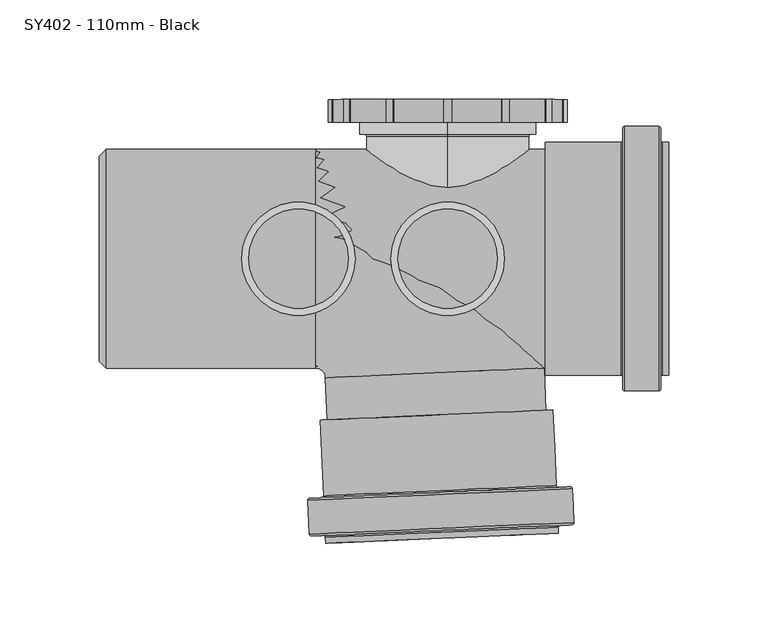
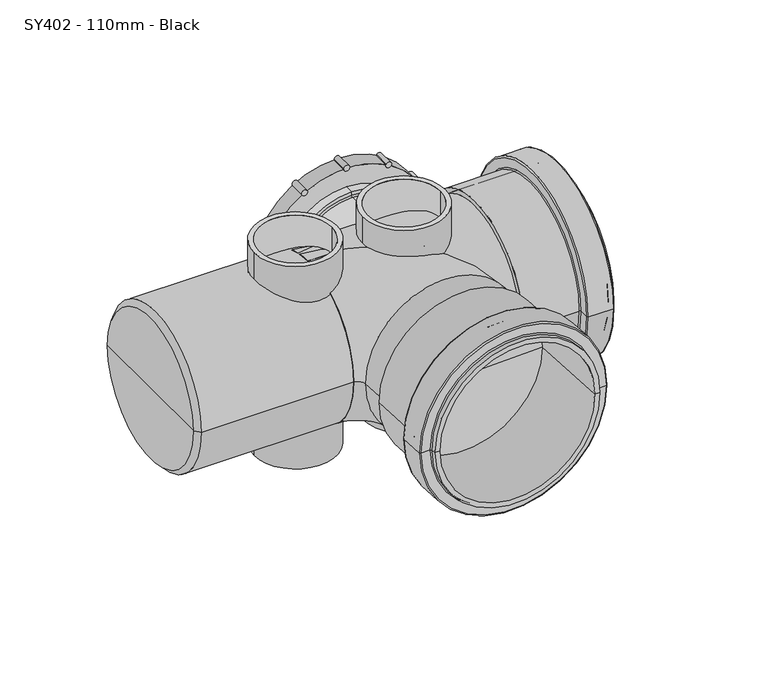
"""IFC4 building model written with IfcOpenShell, lengths in millimetres: pipe fitting geometry, MarleyPlumbingAndDrainage_PipeFitting_AccessBranch87-5_SY402 : SY402 - 110mm - Black."""

from ifc_helpers import new_model, si_unit, point, frame, frame_2d, origin, place, context, project, spatial, polyline, circle_curve, ellipse_curve, trimmed, segment, composite_curve, outline, extrude, source, transform, mapped, element, save
from ifc_brep_helpers import plane_surface, cylinder_surface, revolved_surface, advanced_brep


def sy402_110mm_black_3ef6cacd(model_context):
    return source(origin(), model_context, "Body", "SolidModel", [
        advanced_brep(
        [(62.8811965, -134.95477, 0.0), (-54.0074454, -140.0582383, 0.0), (-53.8765872, -143.055383, 0.0), (63.0120547, -137.9519146, 0.0), (69.8309147, -133.650386, 0.0), (-61.0444023, -139.3645258, 0.0), (-55.050113, -139.1028095, 0.0), (63.8366253, -133.9121024, 0.0), (70.0448139, -115.6238987, 0.0), (-62.8285995, -121.4252772, 0.0), (-62.08707, -138.4090969, 0.0), (70.7863435, -132.6077184, 0.0), (62.9877172, -114.9310655, 0.0), (-55.8587416, -120.1200139, 0.0), (-61.8731707, -120.3826096, 0.0), (69.0021463, -114.6684698, 0.0), (60.3076527, -76.0109249, 0.0), (-56.5809893, -81.1143932, 0.0), (-54.9225732, -119.0983654, 0.0), (61.9660687, -113.9948971, 0.0), (1.8633317, -78.5626591, 0.0), (56.9636517, -79.6602615, 0.0), (-52.9316526, -84.4583941, 0.0), (2.0159996, -82.0593278, 0.0), (59.5153859, -138.1045825, 0.0), (-50.3799185, -142.9027151, 0.0)],
        [
            (0, 1, circle_curve(frame((4.4368756, -137.5065041, 0.0), z_axis=(0.04361938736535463, -0.999048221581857, 0.0), x_axis=(-0.999048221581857, -0.04361938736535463, 0.0)), 58.5)),
            (1, 2),
            (2, 3, circle_curve(frame((4.5677337, -140.5036488, 0.0), z_axis=(-0.04361938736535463, 0.999048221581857, 0.0), x_axis=(-0.999048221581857, -0.04361938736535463, 0.0)), 58.5)),
            (3, 0),
            (1, 0, circle_curve(frame((4.4368756, -137.5065041, 0.0), z_axis=(0.04361938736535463, -0.999048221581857, 0.0), x_axis=(-0.999048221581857, -0.04361938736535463, 0.0)), 58.5)),
            (3, 2, circle_curve(frame((4.5677337, -140.5036488, 0.0), z_axis=(-0.04361938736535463, 0.999048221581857, 0.0), x_axis=(-0.999048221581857, -0.04361938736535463, 0.0)), 58.5)),
            (4, 5, circle_curve(frame((4.3932562, -136.5074559, 0.0), z_axis=(0.04361938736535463, -0.999048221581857, 0.0), x_axis=(-0.999048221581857, -0.04361938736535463, 0.0)), 65.5)),
            (5, 6),
            (6, 7, circle_curve(frame((4.3932562, -136.5074559, 0.0), z_axis=(-0.04361938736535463, 0.999048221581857, 0.0), x_axis=(-0.999048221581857, -0.04361938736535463, 0.0)), 59.5)),
            (7, 4),
            (5, 4, circle_curve(frame((4.3932562, -136.5074559, 0.0), z_axis=(0.04361938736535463, -0.999048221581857, 0.0), x_axis=(-0.999048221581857, -0.04361938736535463, 0.0)), 65.5)),
            (7, 6, circle_curve(frame((4.3932562, -136.5074559, 0.0), z_axis=(-0.04361938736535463, 0.999048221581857, 0.0), x_axis=(-0.999048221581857, -0.04361938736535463, 0.0)), 59.5)),
            (8, 9, circle_curve(frame((3.6081072, -118.5245879, 0.0), z_axis=(0.04361938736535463, -0.999048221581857, 0.0), x_axis=(-0.999048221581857, -0.04361938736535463, 0.0)), 66.5)),
            (9, 10),
            (10, 11, circle_curve(frame((4.3496368, -135.5084077, 0.0), z_axis=(-0.04361938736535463, 0.999048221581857, 0.0), x_axis=(-0.999048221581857, -0.04361938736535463, 0.0)), 66.5)),
            (11, 8),
            (9, 8, circle_curve(frame((3.6081072, -118.5245879, 0.0), z_axis=(0.04361938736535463, -0.999048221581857, 0.0), x_axis=(-0.999048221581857, -0.04361938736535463, 0.0)), 66.5)),
            (11, 10, circle_curve(frame((4.3496368, -135.5084077, 0.0), z_axis=(-0.04361938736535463, 0.999048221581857, 0.0), x_axis=(-0.999048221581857, -0.04361938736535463, 0.0)), 66.5)),
            (12, 13, circle_curve(frame((3.5644878, -117.5255397, 0.0), z_axis=(0.04361938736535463, -0.999048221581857, 0.0), x_axis=(-0.999048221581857, -0.04361938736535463, 0.0)), 59.479841)),
            (13, 14),
            (14, 15, circle_curve(frame((3.5644878, -117.5255397, 0.0), z_axis=(-0.04361938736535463, 0.999048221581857, 0.0), x_axis=(-0.999048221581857, -0.04361938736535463, 0.0)), 65.5)),
            (15, 12),
            (13, 12, circle_curve(frame((3.5644878, -117.5255397, 0.0), z_axis=(0.04361938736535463, -0.999048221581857, 0.0), x_axis=(-0.999048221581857, -0.04361938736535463, 0.0)), 59.479841)),
            (15, 14, circle_curve(frame((3.5644878, -117.5255397, 0.0), z_axis=(-0.04361938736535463, 0.999048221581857, 0.0), x_axis=(-0.999048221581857, -0.04361938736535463, 0.0)), 65.5)),
            (16, 17, circle_curve(frame((1.8633317, -78.5626591, 0.0), z_axis=(0.04361938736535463, -0.999048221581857, 0.0), x_axis=(-0.999048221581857, -0.04361938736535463, 0.0)), 58.5)),
            (17, 18),
            (18, 19, circle_curve(frame((3.5217477, -116.5466313, 0.0), z_axis=(-0.04361938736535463, 0.999048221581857, 0.0), x_axis=(-0.999048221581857, -0.04361938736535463, 0.0)), 58.5)),
            (19, 16),
            (17, 16, circle_curve(frame((1.8633317, -78.5626591, 0.0), z_axis=(0.04361938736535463, -0.999048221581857, 0.0), x_axis=(-0.999048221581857, -0.04361938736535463, 0.0)), 58.5)),
            (19, 18, circle_curve(frame((3.5217477, -116.5466313, 0.0), z_axis=(-0.04361938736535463, 0.999048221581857, 0.0), x_axis=(-0.999048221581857, -0.04361938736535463, 0.0)), 58.5)),
            (20, 17),
            (16, 20),
            (21, 22, circle_curve(frame((2.0159996, -82.0593278, 0.0), z_axis=(0.04361938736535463, -0.999048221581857, 0.0), x_axis=(-0.999048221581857, -0.04361938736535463, 0.0)), 55.0)),
            (22, 23),
            (23, 21),
            (22, 21, circle_curve(frame((2.0159996, -82.0593278, 0.0), z_axis=(0.04361938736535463, -0.999048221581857, 0.0), x_axis=(-0.999048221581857, -0.04361938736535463, 0.0)), 55.0)),
            (24, 25, circle_curve(frame((4.5677337, -140.5036488, 0.0), z_axis=(0.04361938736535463, -0.999048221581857, 0.0), x_axis=(-0.999048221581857, -0.04361938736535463, 0.0)), 55.0)),
            (25, 22),
            (21, 24),
            (25, 24, circle_curve(frame((4.5677337, -140.5036488, 0.0), z_axis=(0.04361938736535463, -0.999048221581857, 0.0), x_axis=(-0.999048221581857, -0.04361938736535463, 0.0)), 55.0)),
            (2, 25),
            (24, 3),
            (6, 1, circle_curve(frame((-55.0064936, -140.1018577, 0.0), z_axis=(0.0, 0.0, -1.0), x_axis=(0.04361938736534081, -0.9990482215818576, 0.0)), 1.0)),
            (0, 7, circle_curve(frame((63.8802447, -134.9111506, 0.0), z_axis=(0.0, 0.0, -1.0), x_axis=(0.04361938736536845, -0.9990482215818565, 0.0)), 1.0)),
            (10, 5, circle_curve(frame((-61.0880217, -138.3654776, 0.0), z_axis=(0.0, 0.0, 1.0), x_axis=(0.04361938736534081, -0.9990482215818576, 0.0)), 1.0)),
            (4, 11, circle_curve(frame((69.7872953, -132.6513378, 0.0), z_axis=(0.0, 0.0, 1.0), x_axis=(0.04361938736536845, -0.9990482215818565, 0.0)), 1.0)),
            (14, 9, circle_curve(frame((-61.8295513, -121.3816578, 0.0), z_axis=(0.0, 0.0, 1.0), x_axis=(0.04361938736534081, -0.9990482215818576, 0.0)), 1.0)),
            (8, 15, circle_curve(frame((69.0457657, -115.667518, 0.0), z_axis=(0.0, 0.0, 1.0), x_axis=(0.04361938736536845, -0.9990482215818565, 0.0)), 1.0)),
            (18, 13, circle_curve(frame((-55.9014817, -119.1411055, 0.0), z_axis=(0.0, 0.0, -1.0), x_axis=(0.04361938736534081, -0.9990482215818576, 0.0)), 0.979841)),
            (12, 19, circle_curve(frame((62.9449771, -113.952157, 0.0), z_axis=(0.0, 0.0, -1.0), x_axis=(0.04361938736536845, -0.9990482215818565, 0.0)), 0.979841)),
        ],
        [
            cylinder_surface(frame((3.4670342, -115.2934859, 0.0), z_axis=(-0.04361938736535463, 0.999048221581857, 0.0), x_axis=(-0.999048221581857, -0.04361938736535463, 0.0)), 58.5),
            plane_surface(frame((4.3932562, -136.5074559, 0.0), z_axis=(0.04361938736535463, -0.999048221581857, 0.0), x_axis=(-0.999048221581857, -0.04361938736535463, 0.0))),
            cylinder_surface(frame((3.4670342, -115.2934859, 0.0), z_axis=(-0.04361938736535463, 0.999048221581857, 0.0), x_axis=(-0.999048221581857, -0.04361938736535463, 0.0)), 66.5),
            plane_surface(frame((3.5644878, -117.5255397, 0.0), z_axis=(-0.04361938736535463, 0.999048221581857, 0.0), x_axis=(-0.999048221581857, -0.04361938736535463, 0.0))),
            plane_surface(frame((1.8633317, -78.5626591, 0.0), z_axis=(-0.04361938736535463, 0.999048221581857, 0.0), x_axis=(-0.999048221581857, -0.04361938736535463, 0.0))),
            plane_surface(frame((2.0159996, -82.0593278, 0.0), z_axis=(0.04361938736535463, -0.999048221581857, 0.0), x_axis=(-0.999048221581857, -0.04361938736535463, 0.0))),
            revolved_surface(polyline([(-52.93165266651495, -84.45839410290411, 0.0), (-50.379918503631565, -142.90271511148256, 0.0)]), (3.4670342, -115.2934859, 0.0), (-0.04361938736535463, 0.999048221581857, 0.0)),
            plane_surface(frame((4.5677337, -140.5036488, 0.0), z_axis=(0.04361938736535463, -0.999048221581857, 0.0), x_axis=(-0.999048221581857, -0.04361938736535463, 0.0))),
            revolved_surface(trimmed(ellipse_curve(frame((-55.0064936, -140.1018577, 0.0), z_axis=(0.0, 0.0, 1.0), x_axis=(0.04361938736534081, -0.9990482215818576, 0.0)), 1.0, 1.0), [point((-54.0074454, -140.0582383, 0.0))], [point((-55.050113, -139.1028095, 0.0))], True, "CARTESIAN"), (3.4670342, -115.2934859, 0.0), (-0.04361938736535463, 0.999048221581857, 0.0)),
            revolved_surface(trimmed(ellipse_curve(frame((-61.0880217, -138.3654776, 0.0), z_axis=(0.0, 0.0, -1.0), x_axis=(0.04361938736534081, -0.9990482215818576, 0.0)), 1.0, 1.0), [point((-61.0444023, -139.3645258, 0.0))], [point((-62.08707, -138.4090969, 0.0))], True, "CARTESIAN"), (3.4670342, -115.2934859, 0.0), (-0.04361938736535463, 0.999048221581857, 0.0)),
            revolved_surface(trimmed(ellipse_curve(frame((-61.8295513, -121.3816578, 0.0), z_axis=(0.0, 0.0, -1.0), x_axis=(0.04361938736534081, -0.9990482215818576, 0.0)), 1.0, 1.0), [point((-62.8285995, -121.4252772, 0.0))], [point((-61.8731707, -120.3826096, 0.0))], True, "CARTESIAN"), (3.4670342, -115.2934859, 0.0), (-0.04361938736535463, 0.999048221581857, 0.0)),
            revolved_surface(trimmed(ellipse_curve(frame((-55.9014817, -119.1411055, 0.0), z_axis=(0.0, 0.0, 1.0), x_axis=(0.04361938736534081, -0.9990482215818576, 0.0)), 0.979841, 0.979841), [point((-55.8587416, -120.1200139, 0.0))], [point((-54.9225732, -119.0983654, 0.0))], True, "CARTESIAN"), (3.4670342, -115.2934859, 0.0), (-0.04361938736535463, 0.999048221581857, 0.0)),
        ],
        [
            (0, [[1, 2, 3, 4]]),
            (0, [[5, -4, 6, -2]]),
            (1, [[7, 8, 9, 10]]),
            (1, [[11, -10, 12, -8]]),
            (2, [[13, 14, 15, 16]]),
            (2, [[17, -16, 18, -14]]),
            (3, [[19, 20, 21, 22]]),
            (3, [[23, -22, 24, -20]]),
            (0, [[25, 26, 27, 28]]),
            (0, [[29, -28, 30, -26]]),
            (4, [[31, -25, 32]]),
            (4, [[-32, -29, -31]]),
            (5, [[33, 34, 35]]),
            (5, [[36, -35, -34]]),
            (6, [[37, 38, -33, 39]]),
            (6, [[40, -39, -36, -38]]),
            (7, [[-3, 41, -37, 42]]),
            (7, [[-6, -42, -40, -41]]),
            (8, [[-9, 43, -1, 44]]),
            (8, [[-12, -44, -5, -43]]),
            (9, [[-15, 45, -7, 46]]),
            (9, [[-18, -46, -11, -45]]),
            (10, [[-21, 47, -13, 48]]),
            (10, [[-24, -48, -17, -47]]),
            (11, [[-27, 49, -19, 50]]),
            (11, [[-30, -50, -23, -49]]),
        ],
    ),
        extrude(outline(composite_curve([segment(trimmed(circle_curve(frame_2d((29.0, 57.6251808)), 2.0), [point((30.7320508, 56.6251808))], [point((27.2679492, 58.6251808))], False, "CARTESIAN"), True, "CONTINUOUS"), segment(trimmed(circle_curve(frame_2d((29.0, 57.6251808)), 2.0), [point((27.2679492, 58.6251808))], [point((30.7320508, 56.6251808))], False, "CARTESIAN"), True, "CONTINUOUS")], self_intersect=False)), frame((0.0, 68.5, 0.0), z_axis=(0.0, 1.0, 0.0), x_axis=(0.0, 0.0, 1.0)), (0.0, 0.0, 1.0), 11.5),
        extrude(outline(composite_curve([segment(trimmed(circle_curve(frame_2d((0.0, 65.3957074)), 2.0), [point((2.0, 65.3957074))], [point((-2.0, 65.3957074))], False, "CARTESIAN"), True, "CONTINUOUS"), segment(trimmed(circle_curve(frame_2d((0.0, 65.3957074)), 2.0), [point((-2.0, 65.3957074))], [point((2.0, 65.3957074))], False, "CARTESIAN"), True, "CONTINUOUS")], self_intersect=False)), frame((0.0, 68.5, 0.0), z_axis=(0.0, 1.0, 0.0), x_axis=(0.0, 0.0, 1.0)), (0.0, 0.0, 1.0), 11.5),
        extrude(outline(composite_curve([segment(trimmed(circle_curve(frame_2d((-29.0, 57.6251808)), 2.0), [point((-27.2679492, 58.6251808))], [point((-30.7320508, 56.6251808))], False, "CARTESIAN"), True, "CONTINUOUS"), segment(trimmed(circle_curve(frame_2d((-29.0, 57.6251808)), 2.0), [point((-30.7320508, 56.6251808))], [point((-27.2679492, 58.6251808))], False, "CARTESIAN"), True, "CONTINUOUS")], self_intersect=False)), frame((0.0, 68.5, 0.0), z_axis=(0.0, 1.0, 0.0), x_axis=(0.0, 0.0, 1.0)), (0.0, 0.0, 1.0), 11.5),
        extrude(outline(composite_curve([segment(trimmed(circle_curve(frame_2d((-50.2294734, 36.3957074)), 2.0), [point((-49.2294734, 38.1277582))], [point((-51.2294734, 34.6636566))], False, "CARTESIAN"), True, "CONTINUOUS"), segment(trimmed(circle_curve(frame_2d((-50.2294734, 36.3957074)), 2.0), [point((-51.2294734, 34.6636566))], [point((-49.2294734, 38.1277582))], False, "CARTESIAN"), True, "CONTINUOUS")], self_intersect=False)), frame((0.0, 68.5, 0.0), z_axis=(0.0, 1.0, 0.0), x_axis=(0.0, 0.0, 1.0)), (0.0, 0.0, 1.0), 11.5),
        extrude(outline(composite_curve([segment(trimmed(circle_curve(frame_2d((-58.0, 7.3957074)), 2.0), [point((-58.0, 9.3957074))], [point((-58.0, 5.3957074))], False, "CARTESIAN"), True, "CONTINUOUS"), segment(trimmed(circle_curve(frame_2d((-58.0, 7.3957074)), 2.0), [point((-58.0, 5.3957074))], [point((-58.0, 9.3957074))], False, "CARTESIAN"), True, "CONTINUOUS")], self_intersect=False)), frame((0.0, 68.5, 0.0), z_axis=(0.0, 1.0, 0.0), x_axis=(0.0, 0.0, 1.0)), (0.0, 0.0, 1.0), 11.5),
        extrude(outline(composite_curve([segment(trimmed(circle_curve(frame_2d((-50.2294734, -21.6042926)), 2.0), [point((-51.2294734, -19.8722418))], [point((-49.2294734, -23.3363434))], False, "CARTESIAN"), True, "CONTINUOUS"), segment(trimmed(circle_curve(frame_2d((-50.2294734, -21.6042926)), 2.0), [point((-49.2294734, -23.3363434))], [point((-51.2294734, -19.8722418))], False, "CARTESIAN"), True, "CONTINUOUS")], self_intersect=False)), frame((0.0, 68.5, 0.0), z_axis=(0.0, 1.0, 0.0), x_axis=(0.0, 0.0, 1.0)), (0.0, 0.0, 1.0), 11.5),
        extrude(outline(composite_curve([segment(trimmed(circle_curve(frame_2d((-29.0, -42.833766)), 2.0), [point((-30.7320508, -41.833766))], [point((-27.2679492, -43.833766))], False, "CARTESIAN"), True, "CONTINUOUS"), segment(trimmed(circle_curve(frame_2d((-29.0, -42.833766)), 2.0), [point((-27.2679492, -43.833766))], [point((-30.7320508, -41.833766))], False, "CARTESIAN"), True, "CONTINUOUS")], self_intersect=False)), frame((0.0, 68.5, 0.0), z_axis=(0.0, 1.0, 0.0), x_axis=(0.0, 0.0, 1.0)), (0.0, 0.0, 1.0), 11.5),
        extrude(outline(composite_curve([segment(trimmed(circle_curve(frame_2d((0.0, -50.6042926)), 2.0), [point((-2.0, -50.6042926))], [point((2.0, -50.6042926))], False, "CARTESIAN"), True, "CONTINUOUS"), segment(trimmed(circle_curve(frame_2d((0.0, -50.6042926)), 2.0), [point((2.0, -50.6042926))], [point((-2.0, -50.6042926))], False, "CARTESIAN"), True, "CONTINUOUS")], self_intersect=False)), frame((0.0, 68.5, 0.0), z_axis=(0.0, 1.0, 0.0), x_axis=(0.0, 0.0, 1.0)), (0.0, 0.0, 1.0), 11.5),
        extrude(outline(composite_curve([segment(trimmed(circle_curve(frame_2d((29.0, -42.833766)), 2.0), [point((27.2679492, -43.833766))], [point((30.7320508, -41.833766))], False, "CARTESIAN"), True, "CONTINUOUS"), segment(trimmed(circle_curve(frame_2d((29.0, -42.833766)), 2.0), [point((30.7320508, -41.833766))], [point((27.2679492, -43.833766))], False, "CARTESIAN"), True, "CONTINUOUS")], self_intersect=False)), frame((0.0, 68.5, 0.0), z_axis=(0.0, 1.0, 0.0), x_axis=(0.0, 0.0, 1.0)), (0.0, 0.0, 1.0), 11.5),
        extrude(outline(composite_curve([segment(trimmed(circle_curve(frame_2d((50.2294734, -21.6042926)), 2.0), [point((49.2294734, -23.3363434))], [point((51.2294734, -19.8722418))], False, "CARTESIAN"), True, "CONTINUOUS"), segment(trimmed(circle_curve(frame_2d((50.2294734, -21.6042926)), 2.0), [point((51.2294734, -19.8722418))], [point((49.2294734, -23.3363434))], False, "CARTESIAN"), True, "CONTINUOUS")], self_intersect=False)), frame((0.0, 68.5, 0.0), z_axis=(0.0, 1.0, 0.0), x_axis=(0.0, 0.0, 1.0)), (0.0, 0.0, 1.0), 11.5),
        extrude(outline(composite_curve([segment(trimmed(circle_curve(frame_2d((50.2294734, 36.3957074)), 2.0), [point((51.2294734, 34.6636566))], [point((49.2294734, 38.1277582))], False, "CARTESIAN"), True, "CONTINUOUS"), segment(trimmed(circle_curve(frame_2d((50.2294734, 36.3957074)), 2.0), [point((49.2294734, 38.1277582))], [point((51.2294734, 34.6636566))], False, "CARTESIAN"), True, "CONTINUOUS")], self_intersect=False)), frame((0.0, 68.5, 0.0), z_axis=(0.0, 1.0, 0.0), x_axis=(0.0, 0.0, 1.0)), (0.0, 0.0, 1.0), 11.5),
        extrude(outline(composite_curve([segment(trimmed(circle_curve(frame_2d((58.0, 7.3957074)), 2.0), [point((58.0, 5.3957074))], [point((58.0, 9.3957074))], False, "CARTESIAN"), True, "CONTINUOUS"), segment(trimmed(circle_curve(frame_2d((58.0, 7.3957074)), 2.0), [point((58.0, 9.3957074))], [point((58.0, 5.3957074))], False, "CARTESIAN"), True, "CONTINUOUS")], self_intersect=False)), frame((0.0, 68.5, 0.0), z_axis=(0.0, 1.0, 0.0), x_axis=(0.0, 0.0, 1.0)), (0.0, 0.0, 1.0), 11.5),
        advanced_brep(
        [(-50.6042926, 80.0, 0.0), (65.3957074, 80.0, 0.0), (-13.4605397, 80.0, -50.3514345), (28.2519545, 80.0, -50.3514345), (26.9125624, 80.0, -47.1178562), (-12.1211477, 80.0, -47.1178562), (57.7471419, 80.0, -20.8562471), (57.7471419, 80.0, 20.8562471), (54.5135635, 80.0, 19.5168551), (54.5135635, 80.0, -19.5168551), (-39.7221488, 80.0, 19.5168551), (-42.9557271, 80.0, 20.8562471), (-42.9557271, 80.0, -20.8562471), (-39.7221488, 80.0, -19.5168551), (-12.1211477, 80.0, 47.1178562), (26.9125624, 80.0, 47.1178562), (28.2519545, 80.0, 50.3514345), (-13.4605397, 80.0, 50.3514345), (-50.6042926, 68.5, 0.0), (65.3957074, 68.5, 0.0), (7.3957074, 68.5, -44.5), (7.3957074, 68.5, 44.5), (-12.1211477, 74.0, -47.1178562), (26.9125624, 74.0, -47.1178562), (28.2519545, 74.0, -50.3514345), (-13.4605397, 74.0, -50.3514345), (54.5135635, 74.0, -19.5168551), (54.5135635, 74.0, 19.5168551), (57.7471419, 74.0, 20.8562471), (57.7471419, 74.0, -20.8562471), (-39.7221488, 74.0, -19.5168551), (-42.9557271, 74.0, -20.8562471), (-42.9557271, 74.0, 20.8562471), (-39.7221488, 74.0, 19.5168551), (-13.4605397, 74.0, 50.3514345), (28.2519545, 74.0, 50.3514345), (26.9125624, 74.0, 47.1178562), (-12.1211477, 74.0, 47.1178562), (7.3957074, 62.5, -44.5), (7.3957074, 62.5, 44.5), (7.3957074, 62.5, 42.0), (7.3957074, 62.5, -42.0), (7.3957074, 61.5, 41.0), (7.3957074, 61.5, -41.0), (7.3957074, 0.0, 41.0), (7.3957074, 0.0, -41.0), (7.3957074, 0.0, 0.0)],
        [
            (0, 1, circle_curve(frame((7.3957074, 80.0, 0.0), z_axis=(0.0, 1.0, 0.0), x_axis=(1.0000000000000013, 0.0, 0.0)), 58.0)),
            (1, 0, circle_curve(frame((7.3957074, 80.0, 0.0), z_axis=(0.0, 1.0, 0.0), x_axis=(1.0000000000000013, 0.0, 0.0)), 58.0)),
            (2, 3, circle_curve(frame((7.3957074, 80.0, 0.0), z_axis=(0.0, -1.0, 0.0), x_axis=(1.0000000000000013, 0.0, 0.0)), 54.5)),
            (3, 4),
            (4, 5, circle_curve(frame((7.3957074, 80.0, 0.0), z_axis=(0.0, 1.0, 0.0), x_axis=(1.0000000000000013, 0.0, 0.0)), 51.0)),
            (5, 2),
            (6, 7, circle_curve(frame((7.3957074, 80.0, 0.0), z_axis=(0.0, -1.0, 0.0), x_axis=(1.0000000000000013, 0.0, 0.0)), 54.5)),
            (7, 8),
            (8, 9, circle_curve(frame((7.3957074, 80.0, 0.0), z_axis=(0.0, 1.0, 0.0), x_axis=(1.0000000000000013, 0.0, 0.0)), 51.0)),
            (9, 6),
            (10, 11),
            (11, 12, circle_curve(frame((7.3957074, 80.0, 0.0), z_axis=(0.0, -1.0, 0.0), x_axis=(1.0000000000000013, 0.0, 0.0)), 54.5)),
            (12, 13),
            (13, 10, circle_curve(frame((7.3957074, 80.0, 0.0), z_axis=(0.0, 1.0, 0.0), x_axis=(1.0000000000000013, 0.0, 0.0)), 51.0)),
            (14, 15, circle_curve(frame((7.3957074, 80.0, 0.0), z_axis=(0.0, 1.0, 0.0), x_axis=(1.0000000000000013, 0.0, 0.0)), 51.0)),
            (15, 16),
            (16, 17, circle_curve(frame((7.3957074, 80.0, 0.0), z_axis=(0.0, -1.0, 0.0), x_axis=(1.0000000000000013, 0.0, 0.0)), 54.5)),
            (17, 14),
            (18, 19, circle_curve(frame((7.3957074, 68.5, 0.0), z_axis=(0.0, -1.0, 0.0), x_axis=(1.0000000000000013, 0.0, 0.0)), 58.0)),
            (19, 18, circle_curve(frame((7.3957074, 68.5, 0.0), z_axis=(0.0, -1.0, 0.0), x_axis=(1.0000000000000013, 0.0, 0.0)), 58.0)),
            (20, 21, circle_curve(frame((7.3957074, 68.5, 0.0), z_axis=(0.0, 1.0, 0.0), x_axis=(0.0, 0.0, 1.0000000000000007)), 44.5)),
            (21, 20, circle_curve(frame((7.3957074, 68.5, 0.0), z_axis=(0.0, 1.0, 0.0), x_axis=(0.0, 0.0, 1.0000000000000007)), 44.5)),
            (1, 19),
            (18, 0),
            (22, 23, circle_curve(frame((7.3957074, 74.0, 0.0), z_axis=(0.0, -1.0, 0.0), x_axis=(1.0000000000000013, 0.0, 0.0)), 51.0)),
            (23, 24),
            (24, 25, circle_curve(frame((7.3957074, 74.0, 0.0), z_axis=(0.0, 1.0, 0.0), x_axis=(1.0000000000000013, 0.0, 0.0)), 54.5)),
            (25, 22),
            (26, 27, circle_curve(frame((7.3957074, 74.0, 0.0), z_axis=(0.0, -1.0, 0.0), x_axis=(1.0000000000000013, 0.0, 0.0)), 51.0)),
            (27, 28),
            (28, 29, circle_curve(frame((7.3957074, 74.0, 0.0), z_axis=(0.0, 1.0, 0.0), x_axis=(1.0000000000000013, 0.0, 0.0)), 54.5)),
            (29, 26),
            (30, 31),
            (31, 32, circle_curve(frame((7.3957074, 74.0, 0.0), z_axis=(0.0, 1.0, 0.0), x_axis=(1.0000000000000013, 0.0, 0.0)), 54.5)),
            (32, 33),
            (33, 30, circle_curve(frame((7.3957074, 74.0, 0.0), z_axis=(0.0, -1.0, 0.0), x_axis=(1.0000000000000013, 0.0, 0.0)), 51.0)),
            (34, 35, circle_curve(frame((7.3957074, 74.0, 0.0), z_axis=(0.0, 1.0, 0.0), x_axis=(1.0000000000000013, 0.0, 0.0)), 54.5)),
            (35, 36),
            (36, 37, circle_curve(frame((7.3957074, 74.0, 0.0), z_axis=(0.0, -1.0, 0.0), x_axis=(1.0000000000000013, 0.0, 0.0)), 51.0)),
            (37, 34),
            (25, 2),
            (5, 22),
            (24, 3),
            (23, 4),
            (29, 6),
            (9, 26),
            (28, 7),
            (27, 8),
            (33, 10),
            (13, 30),
            (32, 11),
            (31, 12),
            (37, 14),
            (17, 34),
            (36, 15),
            (35, 16),
            (38, 20),
            (21, 39),
            (39, 38, circle_curve(frame((7.3957074, 62.5, 0.0), z_axis=(0.0, 1.0, 0.0), x_axis=(0.0, 0.0, 1.0000000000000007)), 44.5)),
            (38, 39, circle_curve(frame((7.3957074, 62.5, 0.0), z_axis=(0.0, 1.0, 0.0), x_axis=(0.0, 0.0, 1.0000000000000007)), 44.5)),
            (39, 40),
            (40, 41, circle_curve(frame((7.3957074, 62.5, 0.0), z_axis=(0.0, 1.0, 0.0), x_axis=(0.0, 0.0, 1.0000000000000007)), 42.0)),
            (41, 38),
            (41, 40, circle_curve(frame((7.3957074, 62.5, 0.0), z_axis=(0.0, 1.0, 0.0), x_axis=(0.0, 0.0, 1.0000000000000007)), 42.0)),
            (40, 42, circle_curve(frame((7.3957074, 61.5, 42.0), z_axis=(-1.0000000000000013, 0.0, 0.0), x_axis=(0.0, 1.0000000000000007, 0.0)), 1.0)),
            (42, 43, circle_curve(frame((7.3957074, 61.5, 0.0), z_axis=(0.0, 1.0, 0.0), x_axis=(0.0, 0.0, 1.0000000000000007)), 41.0)),
            (43, 41, circle_curve(frame((7.3957074, 61.5, -42.0), z_axis=(-1.0000000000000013, 0.0, 0.0), x_axis=(0.0, 1.0000000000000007, 0.0)), 1.0)),
            (43, 42, circle_curve(frame((7.3957074, 61.5, 0.0), z_axis=(0.0, 1.0, 0.0), x_axis=(0.0, 0.0, 1.0000000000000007)), 41.0)),
            (42, 44),
            (44, 45, circle_curve(frame((7.3957074, 0.0, 0.0), z_axis=(0.0, 1.0, 0.0), x_axis=(0.0, 0.0, 1.0000000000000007)), 41.0)),
            (45, 43),
            (45, 44, circle_curve(frame((7.3957074, 0.0, 0.0), z_axis=(0.0, 1.0, 0.0), x_axis=(0.0, 0.0, 1.0000000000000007)), 41.0)),
            (44, 46),
            (46, 45),
        ],
        [
            plane_surface(frame((65.3957074, 80.0, 0.0), z_axis=(0.0, 1.0, 0.0), x_axis=(0.0, 0.0, 1.0))),
            plane_surface(frame((65.3957074, 68.5, 0.0), z_axis=(0.0, -1.0, 0.0), x_axis=(0.0, 0.0, -1.0))),
            cylinder_surface(frame((7.3957074, 68.5, 0.0), z_axis=(0.0, 1.0000000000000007, 0.0), x_axis=(1.0000000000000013, 0.0, 0.0)), 58.0),
            plane_surface(frame((-13.4605397, 74.0, -50.3514345), z_axis=(0.0, 1.0, 0.0), x_axis=(0.38268343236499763, 0.0, 0.9238795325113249))),
            plane_surface(frame((-12.1211477, 80.0, -47.1178562), z_axis=(0.9238795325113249, 0.0, -0.38268343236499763), x_axis=(0.0, -1.0, 0.0))),
            revolved_surface(polyline([(61.89570740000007, 80.00000000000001, 0.0), (61.89570740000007, 74.0, 0.0)]), (7.3957074, 74.0, 0.0), (0.0, 1.0000000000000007, 0.0)),
            plane_surface(frame((28.2519545, 80.0, -50.3514345), z_axis=(-0.9238795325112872, 0.0, -0.38268343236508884), x_axis=(0.0, -1.0, 0.0))),
            cylinder_surface(frame((7.3957074, 74.0, 0.0), z_axis=(0.0, -1.0000000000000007, 0.0), x_axis=(1.0000000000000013, 0.0, 0.0)), 51.0),
            plane_surface(frame((54.5135635, 80.0, -19.5168551), z_axis=(0.3826834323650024, 0.0, 0.9238795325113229), x_axis=(0.0, -1.0, 0.0))),
            revolved_surface(polyline([(61.89570740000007, 80.00000000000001, 0.0), (61.89570740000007, 74.0, 0.0)]), (7.3957074, 68.5, 0.0), (0.0, 1.0000000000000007, 0.0)),
            plane_surface(frame((57.7471419, 80.0, 20.8562471), z_axis=(0.38268343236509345, 0.0, -0.9238795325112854), x_axis=(0.0, -1.0, 0.0))),
            cylinder_surface(frame((7.3957074, 68.5, 0.0), z_axis=(0.0, -1.0000000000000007, 0.0), x_axis=(1.0000000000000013, 0.0, 0.0)), 51.0),
            plane_surface(frame((-39.7221488, 80.0, 19.5168551), z_axis=(-0.38268343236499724, 0.0, -0.923879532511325), x_axis=(0.0, -1.0, 0.0))),
            plane_surface(frame((-42.9557271, 80.0, -20.8562471), z_axis=(-0.3826834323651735, 0.0, 0.9238795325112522), x_axis=(0.0, -1.0, 0.0))),
            plane_surface(frame((-13.4605397, 80.0, 50.3514345), z_axis=(0.923879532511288, 0.0, 0.38268343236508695), x_axis=(0.0, -1.0, 0.0))),
            plane_surface(frame((26.9125624, 80.0, 47.1178562), z_axis=(-0.9238795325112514, 0.0, 0.3826834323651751), x_axis=(0.0, -1.0, 0.0))),
            cylinder_surface(frame((7.3957074, -1158.344146, 0.0), z_axis=(0.0, -1.0000000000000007, 0.0), x_axis=(0.0, 0.0, 1.0000000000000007)), 44.5),
            plane_surface(frame((7.3957074, 62.5, 0.0), z_axis=(0.0, -1.0, 0.0), x_axis=(0.0, 0.0, 1.0))),
            revolved_surface(trimmed(ellipse_curve(frame((7.3957074, 61.5, 42.0), z_axis=(-1.0000000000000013, 0.0, 0.0), x_axis=(0.0, 1.0000000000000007, 0.0)), 1.0, 1.0), [point((7.3957074, 62.5, 42.0))], [point((7.3957074, 61.5, 41.0))], True, "CARTESIAN"), (7.3957074, -1158.344146, 0.0), (0.0, -1.0000000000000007, 0.0)),
            cylinder_surface(frame((7.3957074, -1158.344146, 0.0), z_axis=(0.0, -1.0000000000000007, 0.0), x_axis=(0.0, 0.0, 1.0000000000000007)), 41.0),
            plane_surface(frame((7.3957074, 0.0, 0.0), z_axis=(0.0, -1.0, 0.0), x_axis=(0.0, 0.0, 1.0))),
        ],
        [
            (0, [[1, 2], [3, 4, 5, 6], [7, 8, 9, 10], [11, 12, 13, 14], [15, 16, 17, 18]]),
            (1, [[19, 20], [21, 22]]),
            (2, [[23, -19, 24, -2]]),
            (2, [[-24, -20, -23, -1]]),
            (3, [[25, 26, 27, 28]]),
            (3, [[29, 30, 31, 32]]),
            (3, [[33, 34, 35, 36]]),
            (3, [[37, 38, 39, 40]]),
            (4, [[41, -6, 42, -28]]),
            (5, [[43, -3, -41, -27]]),
            (6, [[44, -4, -43, -26]]),
            (7, [[-42, -5, -44, -25]]),
            (8, [[45, -10, 46, -32]]),
            (9, [[47, -7, -45, -31]]),
            (10, [[48, -8, -47, -30]]),
            (11, [[-46, -9, -48, -29]]),
            (11, [[49, -14, 50, -36]]),
            (12, [[51, -11, -49, -35]]),
            (9, [[52, -12, -51, -34]]),
            (13, [[-50, -13, -52, -33]]),
            (14, [[53, -18, 54, -40]]),
            (11, [[55, -15, -53, -39]]),
            (15, [[56, -16, -55, -38]]),
            (9, [[-54, -17, -56, -37]]),
            (16, [[57, -22, 58, 59]]),
            (16, [[-21, -57, 60, -58]]),
            (17, [[61, 62, 63, -59]]),
            (17, [[-63, 64, -61, -60]]),
            (18, [[65, 66, 67, -62]]),
            (18, [[-67, 68, -65, -64]]),
            (19, [[69, 70, 71, -66]]),
            (19, [[-71, 72, -69, -68]]),
            (20, [[73, 74, -70]]),
            (20, [[-74, -73, -72]]),
        ],
    ),
        advanced_brep(
        [(-59.0042926, -55.0, 0.0), (-59.0042926, 55.0, 0.0), (55.8862529, -54.9837705, 0.0), (-54.0090515, -59.7819031, 0.0), (-53.0843205, -80.9617254, 0.0), (56.8109839, -76.1635928, 0.0)],
        [
            (0, 1, circle_curve(frame((-59.0042926, 0.0, 0.0), z_axis=(-1.0, 0.0, 0.0), x_axis=(0.0, 1.0, 0.0)), 55.0)),
            (1, 0, circle_curve(frame((-59.0042926, 0.0, 0.0), z_axis=(-1.0, 0.0, 0.0), x_axis=(0.0, 1.0, 0.0)), 55.0)),
            (2, 1, circle_curve(frame((-59.0042926, -60.0, 0.0), z_axis=(0.0, 0.0, 1.0), x_axis=(0.0, 1.0, 0.0)), 115.0)),
            (0, 3, circle_curve(frame((-59.0042926, -60.0, 0.0), z_axis=(0.0, 0.0, -1.0), x_axis=(0.0, 1.0, 0.0)), 5.0)),
            (3, 2, circle_curve(frame((0.9386007, -57.3828368, 0.0), z_axis=(-0.04361938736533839, 0.9990482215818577, 0.0), x_axis=(0.9990482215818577, 0.04361938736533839, 0.0)), 55.0)),
            (2, 3, circle_curve(frame((0.9386007, -57.3828368, 0.0), z_axis=(-0.04361938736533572, 0.9990482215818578, 0.0), x_axis=(0.9990482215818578, 0.04361938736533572, 0.0)), 55.0)),
            (4, 5, circle_curve(frame((1.8633317, -78.5626591, 0.0), z_axis=(0.043619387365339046, -0.9990482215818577, 0.0), x_axis=(0.9990482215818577, 0.043619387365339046, 0.0)), 55.0)),
            (5, 4, circle_curve(frame((1.8633317, -78.5626591, 0.0), z_axis=(0.043619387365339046, -0.9990482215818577, 0.0), x_axis=(0.9990482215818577, 0.043619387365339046, 0.0)), 55.0)),
            (3, 4),
            (5, 2),
        ],
        [
            plane_surface(frame((-59.0042926, 0.0, 0.0), z_axis=(-1.0, 0.0, 0.0), x_axis=(0.0, 0.0, 1.0))),
            revolved_surface(trimmed(ellipse_curve(frame((-59.0042926, 0.0, 0.0), z_axis=(-1.0, 0.0, 0.0), x_axis=(0.0, 1.0, 0.0)), 55.0, 55.0), [point((-59.0042926, -55.0, 0.0))], [point((-59.0042926, 55.0, 0.0))], True, "CARTESIAN"), (-59.0042926, -60.0, 0.0), (0.0, 0.0, -1.0)),
            revolved_surface(trimmed(ellipse_curve(frame((-59.0042926, 0.0, 0.0), z_axis=(-1.0, 0.0, 0.0), x_axis=(0.0, 1.0, 0.0)), 55.0, 55.0), [point((-59.0042926, 55.0, 0.0))], [point((-59.0042926, -55.0, 0.0))], True, "CARTESIAN"), (-59.0042926, -60.0, 0.0), (0.0, 0.0, -1.0)),
            plane_surface(frame((1.8633317, -78.5626591, 0.0), z_axis=(0.04361938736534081, -0.9990482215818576, 0.0), x_axis=(0.0, 0.0, 1.0))),
            cylinder_surface(frame((0.9386007, -57.3828368, 0.0), z_axis=(-0.043619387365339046, 0.9990482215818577, 0.0), x_axis=(0.9990482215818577, 0.043619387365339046, 0.0)), 55.0),
        ],
        [
            (0, [[1, 2]]),
            (1, [[3, -1, 4, 5]]),
            (2, [[-4, -2, -3, 6]]),
            (3, [[7, 8]]),
            (4, [[-5, 9, -8, 10]]),
            (4, [[-6, -10, -7, -9]]),
        ],
    ),
        extrude(outline(composite_curve([segment(trimmed(circle_curve(frame_2d((7.3957074, 0.0)), 28.5), [point((-21.1042926, 0.0))], [point((35.8957074, 0.0))], False, "CARTESIAN"), True, "CONTINUOUS"), segment(trimmed(circle_curve(frame_2d((7.3957074, 0.0)), 28.5), [point((35.8957074, 0.0))], [point((-21.1042926, 0.0))], False, "CARTESIAN"), True, "CONTINUOUS")], self_intersect=False), holes=[composite_curve([segment(trimmed(circle_curve(frame_2d((7.3957074, 0.0)), 25.0), [point((-17.6042926, 0.0))], [point((32.3957074, 0.0))], True, "CARTESIAN"), True, "CONTINUOUS"), segment(trimmed(circle_curve(frame_2d((7.3957074, 0.0)), 25.0), [point((32.3957074, 0.0))], [point((-17.6042926, 0.0))], True, "CARTESIAN"), True, "CONTINUOUS")], self_intersect=False)]), frame((0.0, 0.0, -74.0), z_axis=(0.0, 0.0, 1.0), x_axis=(1.0, 0.0, 0.0)), (0.0, 0.0, 1.0), 148.0),
        extrude(outline(composite_curve([segment(trimmed(circle_curve(frame_2d((-67.6042926, 0.0)), 28.5), [point((-96.1042926, 0.0))], [point((-39.1042926, 0.0))], False, "CARTESIAN"), True, "CONTINUOUS"), segment(trimmed(circle_curve(frame_2d((-67.6042926, 0.0)), 28.5), [point((-39.1042926, 0.0))], [point((-96.1042926, 0.0))], False, "CARTESIAN"), True, "CONTINUOUS")], self_intersect=False), holes=[composite_curve([segment(trimmed(circle_curve(frame_2d((-67.6042926, 0.0)), 25.0), [point((-92.6042926, 0.0))], [point((-42.6042926, 0.0))], True, "CARTESIAN"), True, "CONTINUOUS"), segment(trimmed(circle_curve(frame_2d((-67.6042926, 0.0)), 25.0), [point((-42.6042926, 0.0))], [point((-92.6042926, 0.0))], True, "CARTESIAN"), True, "CONTINUOUS")], self_intersect=False)]), frame((0.0, 0.0, -74.0), z_axis=(0.0, 0.0, 1.0), x_axis=(1.0, 0.0, 0.0)), (0.0, 0.0, 1.0), 148.0),
        advanced_brep(
        [(115.3957074, -58.5, 0.0), (115.3957074, 58.5, 0.0), (118.3957074, 58.5, 0.0), (118.3957074, -58.5, 0.0), (114.3957074, -65.5, 0.0), (114.3957074, 65.5, 0.0), (114.3957074, 59.5, 0.0), (114.3957074, -59.5, 0.0), (96.3957074, -66.5, 0.0), (96.3957074, 66.5, 0.0), (113.3957074, 66.5, 0.0), (113.3957074, -66.5, 0.0), (95.3957074, -59.479841, 0.0), (95.3957074, 59.479841, 0.0), (95.3957074, 65.5, 0.0), (95.3957074, -65.5, 0.0), (56.3957074, -58.5, 0.0), (56.3957074, 58.5, 0.0), (94.4158664, 58.5, 0.0), (94.4158664, -58.5, 0.0), (56.3957074, -55.0, 0.0), (56.3957074, 55.0, 0.0), (-164.1042926, -55.0, 0.0), (-164.1042926, 55.0, 0.0), (-167.6042926, -51.5, 0.0), (-167.6042926, 51.5, 0.0), (-167.6042926, 0.0, 0.0), (59.8957074, -55.0, 0.0), (59.8957074, 55.0, 0.0), (59.8957074, 0.0, 0.0), (118.3957074, -55.0, 0.0), (118.3957074, 55.0, 0.0)],
        [
            (0, 1, circle_curve(frame((115.3957074, 0.0, 0.0), z_axis=(1.0, 0.0, 0.0), x_axis=(0.0, 1.0, 0.0)), 58.5)),
            (1, 2),
            (2, 3, circle_curve(frame((118.3957074, 0.0, 0.0), z_axis=(-1.0, 0.0, 0.0), x_axis=(0.0, 1.0, 0.0)), 58.5)),
            (3, 0),
            (1, 0, circle_curve(frame((115.3957074, 0.0, 0.0), z_axis=(1.0, 0.0, 0.0), x_axis=(0.0, 1.0, 0.0)), 58.5)),
            (3, 2, circle_curve(frame((118.3957074, 0.0, 0.0), z_axis=(-1.0, 0.0, 0.0), x_axis=(0.0, 1.0, 0.0)), 58.5)),
            (4, 5, circle_curve(frame((114.3957074, 0.0, 0.0), z_axis=(1.0, 0.0, 0.0), x_axis=(0.0, 1.0, 0.0)), 65.5)),
            (5, 6),
            (6, 7, circle_curve(frame((114.3957074, 0.0, 0.0), z_axis=(-1.0, 0.0, 0.0), x_axis=(0.0, 1.0, 0.0)), 59.5)),
            (7, 4),
            (5, 4, circle_curve(frame((114.3957074, 0.0, 0.0), z_axis=(1.0, 0.0, 0.0), x_axis=(0.0, 1.0, 0.0)), 65.5)),
            (7, 6, circle_curve(frame((114.3957074, 0.0, 0.0), z_axis=(-1.0, 0.0, 0.0), x_axis=(0.0, 1.0, 0.0)), 59.5)),
            (8, 9, circle_curve(frame((96.3957074, 0.0, 0.0), z_axis=(1.0, 0.0, 0.0), x_axis=(0.0, 1.0, 0.0)), 66.5)),
            (9, 10),
            (10, 11, circle_curve(frame((113.3957074, 0.0, 0.0), z_axis=(-1.0, 0.0, 0.0), x_axis=(0.0, 1.0, 0.0)), 66.5)),
            (11, 8),
            (9, 8, circle_curve(frame((96.3957074, 0.0, 0.0), z_axis=(1.0, 0.0, 0.0), x_axis=(0.0, 1.0, 0.0)), 66.5)),
            (11, 10, circle_curve(frame((113.3957074, 0.0, 0.0), z_axis=(-1.0, 0.0, 0.0), x_axis=(0.0, 1.0, 0.0)), 66.5)),
            (12, 13, circle_curve(frame((95.3957074, 0.0, 0.0), z_axis=(1.0, 0.0, 0.0), x_axis=(0.0, 1.0, 0.0)), 59.479841)),
            (13, 14),
            (14, 15, circle_curve(frame((95.3957074, 0.0, 0.0), z_axis=(-1.0, 0.0, 0.0), x_axis=(0.0, 1.0, 0.0)), 65.5)),
            (15, 12),
            (13, 12, circle_curve(frame((95.3957074, 0.0, 0.0), z_axis=(1.0, 0.0, 0.0), x_axis=(0.0, 1.0, 0.0)), 59.479841)),
            (15, 14, circle_curve(frame((95.3957074, 0.0, 0.0), z_axis=(-1.0, 0.0, 0.0), x_axis=(0.0, 1.0, 0.0)), 65.5)),
            (16, 17, circle_curve(frame((56.3957074, 0.0, 0.0), z_axis=(1.0, 0.0, 0.0), x_axis=(0.0, 1.0, 0.0)), 58.5)),
            (17, 18),
            (18, 19, circle_curve(frame((94.4158664, 0.0, 0.0), z_axis=(-1.0, 0.0, 0.0), x_axis=(0.0, 1.0, 0.0)), 58.5)),
            (19, 16),
            (17, 16, circle_curve(frame((56.3957074, 0.0, 0.0), z_axis=(1.0, 0.0, 0.0), x_axis=(0.0, 1.0, 0.0)), 58.5)),
            (19, 18, circle_curve(frame((94.4158664, 0.0, 0.0), z_axis=(-1.0, 0.0, 0.0), x_axis=(0.0, 1.0, 0.0)), 58.5)),
            (20, 21, circle_curve(frame((56.3957074, 0.0, 0.0), z_axis=(1.0, 0.0, 0.0), x_axis=(0.0, 1.0, 0.0)), 55.0)),
            (21, 17),
            (16, 20),
            (21, 20, circle_curve(frame((56.3957074, 0.0, 0.0), z_axis=(1.0, 0.0, 0.0), x_axis=(0.0, 1.0, 0.0)), 55.0)),
            (22, 23, circle_curve(frame((-164.1042926, 0.0, 0.0), z_axis=(1.0, 0.0, 0.0), x_axis=(0.0, 1.0, 0.0)), 55.0)),
            (23, 21),
            (20, 22),
            (23, 22, circle_curve(frame((-164.1042926, 0.0, 0.0), z_axis=(1.0, 0.0, 0.0), x_axis=(0.0, 1.0, 0.0)), 55.0)),
            (24, 25, circle_curve(frame((-167.6042926, 0.0, 0.0), z_axis=(1.0, 0.0, 0.0), x_axis=(0.0, 1.0, 0.0)), 51.5)),
            (25, 23),
            (22, 24),
            (25, 24, circle_curve(frame((-167.6042926, 0.0, 0.0), z_axis=(1.0, 0.0, 0.0), x_axis=(0.0, 1.0, 0.0)), 51.5)),
            (26, 25),
            (24, 26),
            (27, 28, circle_curve(frame((59.8957074, 0.0, 0.0), z_axis=(1.0, 0.0, 0.0), x_axis=(0.0, 1.0, 0.0)), 55.0)),
            (28, 29),
            (29, 27),
            (28, 27, circle_curve(frame((59.8957074, 0.0, 0.0), z_axis=(1.0, 0.0, 0.0), x_axis=(0.0, 1.0, 0.0)), 55.0)),
            (30, 31, circle_curve(frame((118.3957074, 0.0, 0.0), z_axis=(1.0, 0.0, 0.0), x_axis=(0.0, 1.0, 0.0)), 55.0)),
            (31, 28),
            (27, 30),
            (31, 30, circle_curve(frame((118.3957074, 0.0, 0.0), z_axis=(1.0, 0.0, 0.0), x_axis=(0.0, 1.0, 0.0)), 55.0)),
            (2, 31),
            (30, 3),
            (6, 1, circle_curve(frame((115.3957074, 59.5, 0.0), z_axis=(0.0, 0.0, 1.0), x_axis=(1.0, 0.0, 0.0)), 1.0)),
            (0, 7, circle_curve(frame((115.3957074, -59.5, 0.0), z_axis=(0.0, 0.0, 1.0), x_axis=(1.0, 0.0, 0.0)), 1.0)),
            (10, 5, circle_curve(frame((113.3957074, 65.5, 0.0), z_axis=(0.0, 0.0, -1.0), x_axis=(1.0, 0.0, 0.0)), 1.0)),
            (4, 11, circle_curve(frame((113.3957074, -65.5, 0.0), z_axis=(0.0, 0.0, -1.0), x_axis=(1.0, 0.0, 0.0)), 1.0)),
            (14, 9, circle_curve(frame((96.3957074, 65.5, 0.0), z_axis=(0.0, 0.0, -1.0), x_axis=(1.0, 0.0, 0.0)), 1.0)),
            (8, 15, circle_curve(frame((96.3957074, -65.5, 0.0), z_axis=(0.0, 0.0, -1.0), x_axis=(1.0, 0.0, 0.0)), 1.0)),
            (18, 13, circle_curve(frame((94.4158664, 59.479841, 0.0), z_axis=(0.0, 0.0, 1.0), x_axis=(1.0, 0.0, 0.0)), 0.979841)),
            (12, 19, circle_curve(frame((94.4158664, -59.479841, 0.0), z_axis=(0.0, 0.0, 1.0), x_axis=(1.0, 0.0, 0.0)), 0.979841)),
        ],
        [
            cylinder_surface(frame((1976.9624955, 0.0, 0.0), z_axis=(-1.0, 0.0, 0.0), x_axis=(0.0, 1.0, 0.0)), 58.5),
            plane_surface(frame((114.3957074, 0.0, 0.0), z_axis=(1.0, 0.0, 0.0), x_axis=(0.0, 1.0, 0.0))),
            cylinder_surface(frame((1976.9624955, 0.0, 0.0), z_axis=(-1.0, 0.0, 0.0), x_axis=(0.0, 1.0, 0.0)), 66.5),
            plane_surface(frame((95.3957074, 0.0, 0.0), z_axis=(-1.0, 0.0, 0.0), x_axis=(0.0, 1.0, 0.0))),
            plane_surface(frame((56.3957074, 0.0, 0.0), z_axis=(-1.0, 0.0, 0.0), x_axis=(0.0, 1.0, 0.0))),
            cylinder_surface(frame((1976.9624955, 0.0, 0.0), z_axis=(-1.0, 0.0, 0.0), x_axis=(0.0, 1.0, 0.0)), 55.0),
            revolved_surface(polyline([(-164.1042926, 55.0, 0.0), (-167.6042926, 51.5, 0.0)]), (1976.9624955, 0.0, 0.0), (-1.0, 0.0, 0.0)),
            plane_surface(frame((-167.6042926, 0.0, 0.0), z_axis=(-1.0, 0.0, 0.0), x_axis=(0.0, 1.0, 0.0))),
            plane_surface(frame((59.8957074, 0.0, 0.0), z_axis=(1.0, 0.0, 0.0), x_axis=(0.0, 1.0, 0.0))),
            revolved_surface(polyline([(59.89570739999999, 55.0, 0.0), (118.39570739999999, 55.0, 0.0)]), (1976.9624955, 0.0, 0.0), (-1.0, 0.0, 0.0)),
            plane_surface(frame((118.3957074, 0.0, 0.0), z_axis=(1.0, 0.0, 0.0), x_axis=(0.0, 1.0, 0.0))),
            revolved_surface(trimmed(ellipse_curve(frame((115.3957074, 59.5, 0.0), z_axis=(0.0, 0.0, -1.0), x_axis=(1.0, 0.0, 0.0)), 1.0, 1.0), [point((115.3957074, 58.5, 0.0))], [point((114.3957074, 59.5, 0.0))], True, "CARTESIAN"), (1976.9624955, 0.0, 0.0), (-1.0, 0.0, 0.0)),
            revolved_surface(trimmed(ellipse_curve(frame((113.3957074, 65.5, 0.0), z_axis=(0.0, 0.0, 1.0), x_axis=(1.0, 0.0, 0.0)), 1.0, 1.0), [point((114.3957074, 65.5, 0.0))], [point((113.3957074, 66.5, 0.0))], True, "CARTESIAN"), (1976.9624955, 0.0, 0.0), (-1.0, 0.0, 0.0)),
            revolved_surface(trimmed(ellipse_curve(frame((96.3957074, 65.5, 0.0), z_axis=(0.0, 0.0, 1.0), x_axis=(1.0, 0.0, 0.0)), 1.0, 1.0), [point((96.3957074, 66.5, 0.0))], [point((95.3957074, 65.5, 0.0))], True, "CARTESIAN"), (1976.9624955, 0.0, 0.0), (-1.0, 0.0, 0.0)),
            revolved_surface(trimmed(ellipse_curve(frame((94.4158664, 59.479841, 0.0), z_axis=(0.0, 0.0, -1.0), x_axis=(1.0, 0.0, 0.0)), 0.979841, 0.979841), [point((95.3957074, 59.479841, 0.0))], [point((94.4158664, 58.5, 0.0))], True, "CARTESIAN"), (1976.9624955, 0.0, 0.0), (-1.0, 0.0, 0.0)),
        ],
        [
            (0, [[1, 2, 3, 4]]),
            (0, [[5, -4, 6, -2]]),
            (1, [[7, 8, 9, 10]]),
            (1, [[11, -10, 12, -8]]),
            (2, [[13, 14, 15, 16]]),
            (2, [[17, -16, 18, -14]]),
            (3, [[19, 20, 21, 22]]),
            (3, [[23, -22, 24, -20]]),
            (0, [[25, 26, 27, 28]]),
            (0, [[29, -28, 30, -26]]),
            (4, [[31, 32, -25, 33]]),
            (4, [[34, -33, -29, -32]]),
            (5, [[35, 36, -31, 37]]),
            (5, [[38, -37, -34, -36]]),
            (6, [[39, 40, -35, 41]]),
            (6, [[42, -41, -38, -40]]),
            (7, [[43, -39, 44]]),
            (7, [[-44, -42, -43]]),
            (8, [[45, 46, 47]]),
            (8, [[48, -47, -46]]),
            (9, [[49, 50, -45, 51]]),
            (9, [[52, -51, -48, -50]]),
            (10, [[-3, 53, -49, 54]]),
            (10, [[-6, -54, -52, -53]]),
            (11, [[-9, 55, -1, 56]]),
            (11, [[-12, -56, -5, -55]]),
            (12, [[-15, 57, -7, 58]]),
            (12, [[-18, -58, -11, -57]]),
            (13, [[-21, 59, -13, 60]]),
            (13, [[-24, -60, -17, -59]]),
            (14, [[-27, 61, -19, 62]]),
            (14, [[-30, -62, -23, -61]]),
        ],
    ),
    ])


if __name__ == "__main__":
    model = new_model("IFC4")
    model_context = context("Model", 3, world=origin())
    ifc_project = project(units=[si_unit("LENGTHUNIT", "METRE", prefix="MILLI")], contexts=[model_context])
    site = spatial("IfcSite", under=ifc_project)
    building = spatial("IfcBuilding", under=site)
    placement = place(None, origin())
    sy402_110mm_black_shape = sy402_110mm_black_3ef6cacd(model_context)
    element("IfcPipeFitting", 1, ObjectType="MarleyPlumbingAndDrainage_PipeFitting_AccessBranch87-5_SY402 : SY402 - 110mm - Black", at=placement, inside=building, context=model_context, shape_type="MappedRepresentation", body=[
        mapped(sy402_110mm_black_shape, transform((0.0, 0.0, 0.0), x_axis=(1.0, 0.0, 0.0), y_axis=(0.0, 1.0, 0.0), z_axis=(0.0, 0.0, 1.0))),
    ])
    save(model, "model.ifc")
